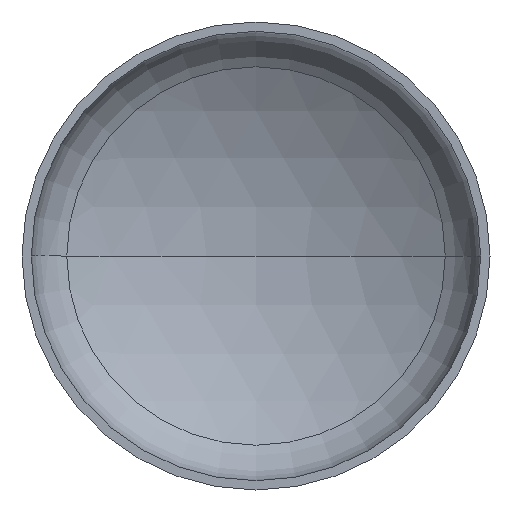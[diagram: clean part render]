
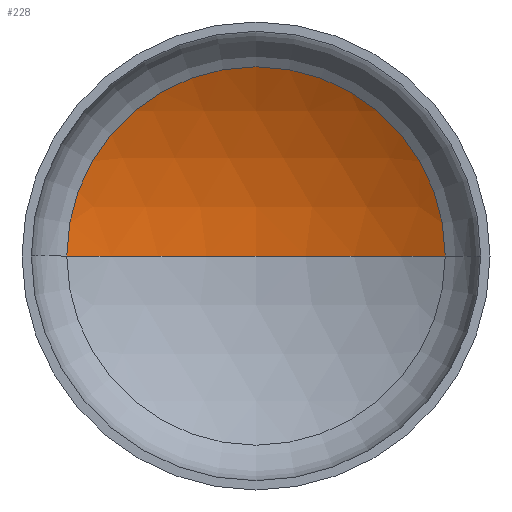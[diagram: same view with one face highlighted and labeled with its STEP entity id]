
A CAD part, front view. The second image highlights one B-rep face of the part: STEP entity #228.
In plain terms, the highlighted spherical face has radius 1360 mm.
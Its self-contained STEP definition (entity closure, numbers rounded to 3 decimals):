
#15 = AXIS2_PLACEMENT_3D ( 'NONE', #116, #156, #157 ) ;
#17 = EDGE_LOOP ( 'NONE', ( #122, #114, #59 ) ) ;
#24 = AXIS2_PLACEMENT_3D ( 'NONE', #259, #164, #376 ) ;
#35 = AXIS2_PLACEMENT_3D ( 'NONE', #165, #175, #171 ) ;
#49 = AXIS2_PLACEMENT_3D ( 'NONE', #295, #208, #201 ) ;
#59 = ORIENTED_EDGE ( 'NONE', *, *, #356, .T. ) ;
#66 = VERTEX_POINT ( 'NONE', #301 ) ;
#87 = VERTEX_POINT ( 'NONE', #250 ) ;
#114 = ORIENTED_EDGE ( 'NONE', *, *, #362, .T. ) ;
#116 = CARTESIAN_POINT ( 'NONE',  ( 0., -839.139, 0. ) ) ;
#122 = ORIENTED_EDGE ( 'NONE', *, *, #346, .F. ) ;
#132 = VERTEX_POINT ( 'NONE', #196 ) ;
#156 = DIRECTION ( 'NONE',  ( 0., 0., -1. ) ) ;
#157 = DIRECTION ( 'NONE',  ( -1., 0., 0. ) ) ;
#164 = DIRECTION ( 'NONE',  ( 0., -1., 0. ) ) ;
#165 = CARTESIAN_POINT ( 'NONE',  ( 0., -839.139, 0. ) ) ;
#171 = DIRECTION ( 'NONE',  ( 1., 0., 0. ) ) ;
#175 = DIRECTION ( 'NONE',  ( 0., 0., 1. ) ) ;
#192 = CIRCLE ( 'NONE', #35, 1360. ) ;
#196 = CARTESIAN_POINT ( 'NONE',  ( 0., 520.861, 0. ) ) ;
#201 = DIRECTION ( 'NONE',  ( -1., 0., 0. ) ) ;
#208 = DIRECTION ( 'NONE',  ( 0., 0., -1. ) ) ;
#220 = FACE_OUTER_BOUND ( 'NONE', #17, .T. ) ;
#228 = ADVANCED_FACE ( 'NONE', ( #220 ), #337, .F. ) ;
#250 = CARTESIAN_POINT ( 'NONE',  ( 687.418, 334.342, 0. ) ) ;
#254 = CIRCLE ( 'NONE', #15, 1360. ) ;
#259 = CARTESIAN_POINT ( 'NONE',  ( 0., 334.342, 0. ) ) ;
#295 = CARTESIAN_POINT ( 'NONE',  ( 0., -839.139, 0. ) ) ;
#301 = CARTESIAN_POINT ( 'NONE',  ( -687.418, 334.342, 0. ) ) ;
#314 = CIRCLE ( 'NONE', #24, 687.418 ) ;
#337 = SPHERICAL_SURFACE ( 'NONE', #49, 1360. ) ;
#346 = EDGE_CURVE ( 'NONE', #132, #66, #192, .T. ) ;
#356 = EDGE_CURVE ( 'NONE', #87, #66, #314, .T. ) ;
#362 = EDGE_CURVE ( 'NONE', #132, #87, #254, .T. ) ;
#376 = DIRECTION ( 'NONE',  ( 1., 0., 0. ) ) ;
